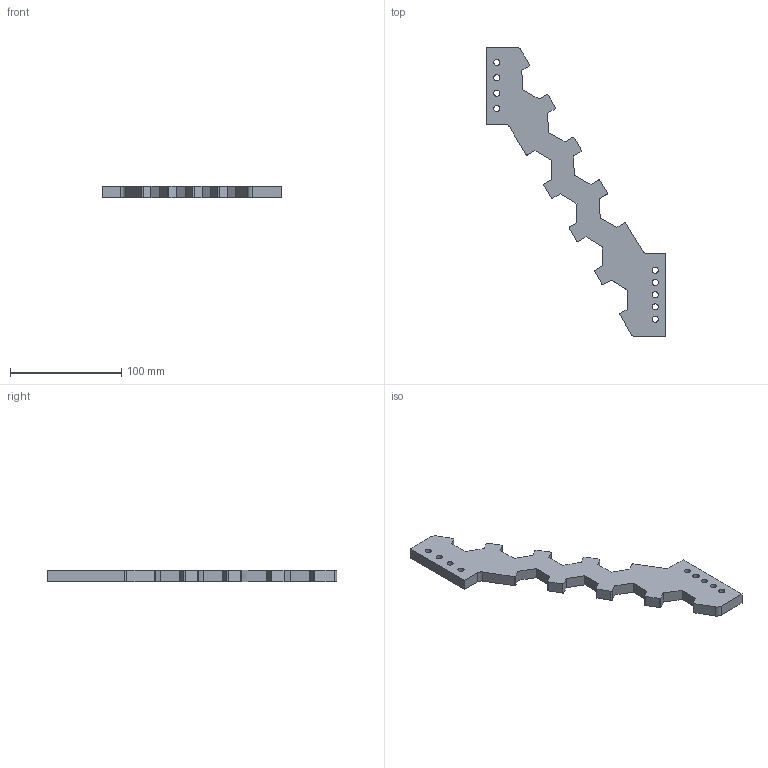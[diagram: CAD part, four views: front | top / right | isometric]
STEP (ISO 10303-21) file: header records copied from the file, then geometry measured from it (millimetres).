
FILE_DESCRIPTION(/* description */ (''),/* implementation_level */ '2;1');
FILE_NAME(/* name */ 'C:/Users/David Florian/Desktop/Cyber-Scooter-Step-Files/7-Headset-to-Board-Connector.step',/* time_stamp */ '2020-12-14T22:15:28-06:00',/* author */ (''),/* organization */ (''),/* preprocessor_version */ 'ST-DEVELOPER v18.1',/* originating_system */ 'Autodesk Translation Framework v9.7.1.1290',/* authorisation */ '');
FILE_SCHEMA (('AUTOMOTIVE_DESIGN { 1 0 10303 214 3 1 1 }'));
Length unit declared in the file: millimetre
Products named in the file (1): Right-Angle-Updated-mirror-correct
Bounding box: 161.5 x 260.75 x 10 mm (x, y, z)
Volume: 101994.8 mm3; surface area: 30436.3 mm2
Topology: 1 solids, 1 shells, 79 faces, 231 edges, 154 vertices
Faces by surface type: plane 50, cylinder 29
Full cylindrical faces by diameter (mm): 5.5 x9
Entity records: 2692 total; most frequent: CARTESIAN_POINT 465, ORIENTED_EDGE 462, DIRECTION 449, EDGE_CURVE 231, LINE 173, VECTOR 173, VERTEX_POINT 154, AXIS2_PLACEMENT_3D 138
